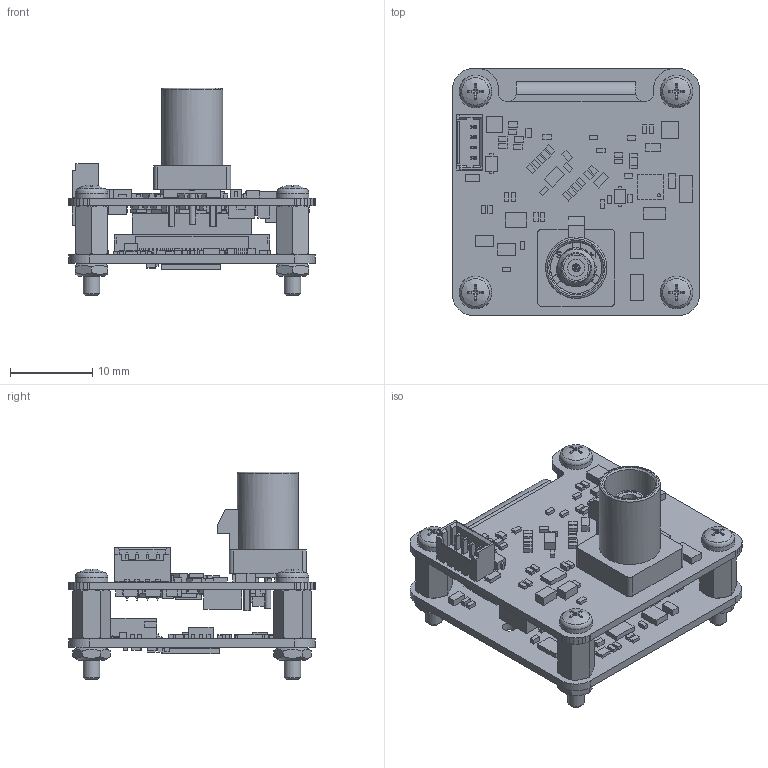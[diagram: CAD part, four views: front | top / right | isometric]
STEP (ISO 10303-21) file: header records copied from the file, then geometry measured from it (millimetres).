
FILE_DESCRIPTION(/* description */ ('289-20-2-12-00-a'),/* implementation_level */ '2;1');
FILE_NAME(/* name */ 'D:\HiDrive\1_Konstruktion\1_KUNDEN\TIS\289-20_MIPI-Dokumentation\289-20-2-12-00-a_CX-R120_IMX335-R110.stp',/* time_stamp */ '2020-12-17T08:43:00+01:00',/* author */ ('Westermann'),/* organization */ ('TIS, Bremen-Germany'),/* preprocessor_version */ 'ST-DEVELOPER v16.5',/* originating_system */ 'Autodesk Inventor 2017',/* authorisation */ '');
FILE_SCHEMA (('AUTOMOTIVE_DESIGN { 1 0 10303 214 3 1 1 }'));
Length unit declared in the file: millimetre
Products named in the file (6): 289-20-2-12-00-a_CX-R120_IMX335-R110; ISO 4032 - M2; ISO 7045 - M2 x 4 - 4.8 - H; IMX335_MIPI_HB_R1_10; TISMIPI_SER953_R1-20; Distanzbolzen-IA-M2x6_0100018_SIBALCO
Assembly tree (14 placements, depth 2):
  289-20-2-12-00-a_CX-R120_IMX335-R110
    ISO 4032 - M2  x4
    ISO 7045 - M2 x 4 - 4.8 - H  x4
    IMX335_MIPI_HB_R1_10
    TISMIPI_SER953_R1-20
    Distanzbolzen-IA-M2x6_0100018_SIBALCO  x4
Bounding box: 30.1 x 30.1 x 25.34 mm (x, y, z)
Volume: 3233.5 mm3; surface area: 7757.8 mm2
Topology: 18 solids, 20 shells, 3458 faces, 9386 edges, 6101 vertices
Faces by surface type: plane 2993, cylinder 294, cone 138, torus 29, sphere 4
Full cylindrical faces by diameter (mm): 0.388 x1, 0.5 x5, 0.613 x1, 0.75 x1, 0.95 x2, 1.2 x1, 1.4 x4, 1.567 x8, 1.7 x2, 1.783 x4, 2 x8, 2.08 x1, 2.1 x8, 3.05 x2, 3.2 x1, 3.68 x1, 3.8 x1, 4.35 x1, 4.6 x1, 6.25 x1, 7.45 x1
Entity records: 104330 total; most frequent: CARTESIAN_POINT 18009, ORIENTED_EDGE 17626, DIRECTION 15957, EDGE_CURVE 8813, LINE 8073, VECTOR 8073, VERTEX_POINT 5780, AXIS2_PLACEMENT_3D 3942
